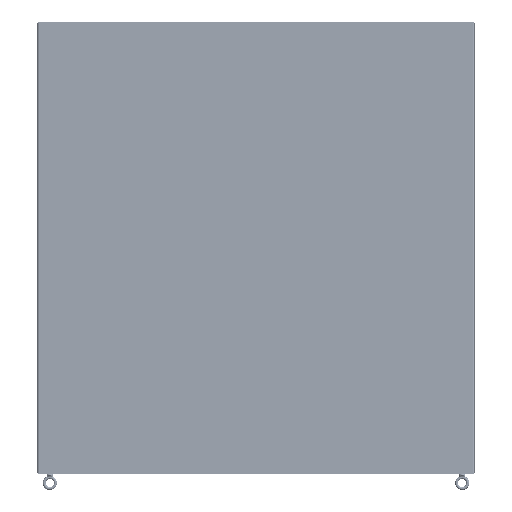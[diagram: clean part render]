
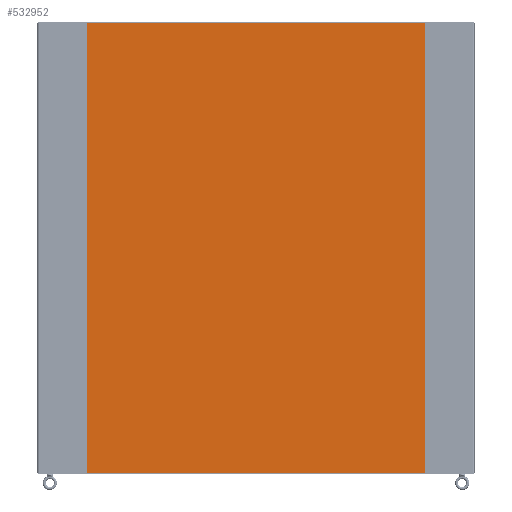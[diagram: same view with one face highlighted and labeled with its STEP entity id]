
A CAD part, left-side view. The second image highlights one B-rep face of the part: STEP entity #532952.
In plain terms, the highlighted planar face has unit normal (-1, 0, 0) as drawn and (0, 0, -1) by its records, which use the part's own axes.
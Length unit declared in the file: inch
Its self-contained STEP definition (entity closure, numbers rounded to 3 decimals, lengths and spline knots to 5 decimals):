
#532514=CARTESIAN_POINT('',(-25.335,33.856,-0.104));
#532515=DIRECTION('',(0.,0.,-1.));
#532516=DIRECTION('',(-1.,0.,0.));
#532517=AXIS2_PLACEMENT_3D('',#532514,#532515,#532516);
#532522=DIRECTION('',(0.,-1.,0.));
#532523=VECTOR('',#532522,67.712);
#532524=CARTESIAN_POINT('',(-25.375,33.856,-0.104));
#532525=LINE('',#532524,#532523);
#532529=CARTESIAN_POINT('',(-25.335,-33.856,-0.104));
#532530=DIRECTION('',(0.,0.,-1.));
#532531=DIRECTION('',(0.,-1.,0.));
#532532=AXIS2_PLACEMENT_3D('',#532529,#532530,#532531);
#532537=DIRECTION('',(1.,0.,0.));
#532538=VECTOR('',#532537,50.67);
#532539=CARTESIAN_POINT('',(-25.335,-33.896,-0.104));
#532540=LINE('',#532539,#532538);
#532544=CARTESIAN_POINT('',(25.335,-33.856,-0.104));
#532545=DIRECTION('',(0.,0.,-1.));
#532546=DIRECTION('',(1.,0.,0.));
#532547=AXIS2_PLACEMENT_3D('',#532544,#532545,#532546);
#532552=DIRECTION('',(0.,1.,0.));
#532553=VECTOR('',#532552,67.712);
#532554=CARTESIAN_POINT('',(25.375,-33.856,-0.104));
#532555=LINE('',#532554,#532553);
#532559=CARTESIAN_POINT('',(25.335,33.856,-0.104));
#532560=DIRECTION('',(0.,0.,-1.));
#532561=DIRECTION('',(0.,1.,0.));
#532562=AXIS2_PLACEMENT_3D('',#532559,#532560,#532561);
#532567=DIRECTION('',(-1.,0.,0.));
#532568=VECTOR('',#532567,50.67);
#532569=CARTESIAN_POINT('',(25.335,33.896,-0.104));
#532570=LINE('',#532569,#532568);
#532668=CARTESIAN_POINT('',(-25.375,33.856,-0.104));
#532669=VERTEX_POINT('',#532668);
#532670=CARTESIAN_POINT('',(-25.335,33.896,-0.104));
#532671=VERTEX_POINT('',#532670);
#532676=CARTESIAN_POINT('',(-25.335,-33.896,-0.104));
#532677=VERTEX_POINT('',#532676);
#532678=CARTESIAN_POINT('',(-25.375,-33.856,-0.104));
#532679=VERTEX_POINT('',#532678);
#532684=CARTESIAN_POINT('',(25.335,33.896,-0.104));
#532685=VERTEX_POINT('',#532684);
#532686=CARTESIAN_POINT('',(25.335,-33.896,-0.104));
#532687=VERTEX_POINT('',#532686);
#532690=CARTESIAN_POINT('',(25.375,33.856,-0.104));
#532691=VERTEX_POINT('',#532690);
#532694=CARTESIAN_POINT('',(25.375,-33.856,-0.104));
#532695=VERTEX_POINT('',#532694);
#532937=CARTESIAN_POINT('',(0.,0.,-0.104));
#532938=DIRECTION('',(0.,0.,1.));
#532939=DIRECTION('',(1.,0.,0.));
#532940=AXIS2_PLACEMENT_3D('',#532937,#532938,#532939);
#532941=PLANE('',#532940);
#532942=ORIENTED_EDGE('',*,*,#532777,.F.);
#532943=ORIENTED_EDGE('',*,*,#532800,.T.);
#532944=ORIENTED_EDGE('',*,*,#532820,.F.);
#532945=ORIENTED_EDGE('',*,*,#532842,.T.);
#532946=ORIENTED_EDGE('',*,*,#532862,.F.);
#532947=ORIENTED_EDGE('',*,*,#532882,.T.);
#532948=ORIENTED_EDGE('',*,*,#532904,.F.);
#532949=ORIENTED_EDGE('',*,*,#532923,.T.);
#532950=EDGE_LOOP('',(#532942,#532943,#532944,#532945,#532946,#532947,#532948,
#532949));
#532951=FACE_OUTER_BOUND('',#532950,.F.);
#532518=CIRCLE('',#532517,0.04);
#532533=CIRCLE('',#532532,0.04);
#532548=CIRCLE('',#532547,0.04);
#532563=CIRCLE('',#532562,0.04);
#532777=EDGE_CURVE('',#532669,#532671,#532518,.T.);
#532800=EDGE_CURVE('',#532669,#532679,#532525,.T.);
#532820=EDGE_CURVE('',#532677,#532679,#532533,.T.);
#532842=EDGE_CURVE('',#532677,#532687,#532540,.T.);
#532862=EDGE_CURVE('',#532695,#532687,#532548,.T.);
#532882=EDGE_CURVE('',#532695,#532691,#532555,.T.);
#532904=EDGE_CURVE('',#532685,#532691,#532563,.T.);
#532923=EDGE_CURVE('',#532685,#532671,#532570,.T.);
#532952=ADVANCED_FACE('',(#532951),#532941,.F.);
